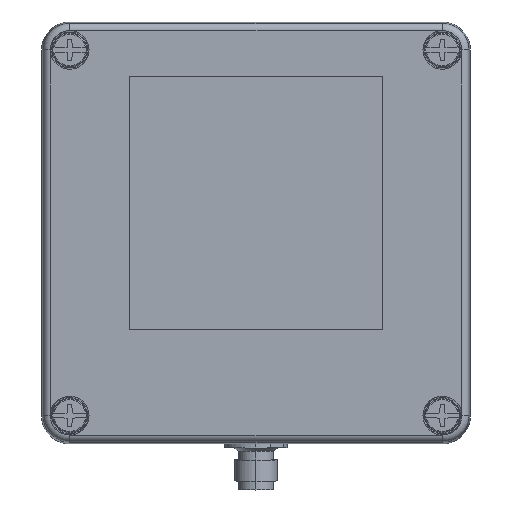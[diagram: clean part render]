
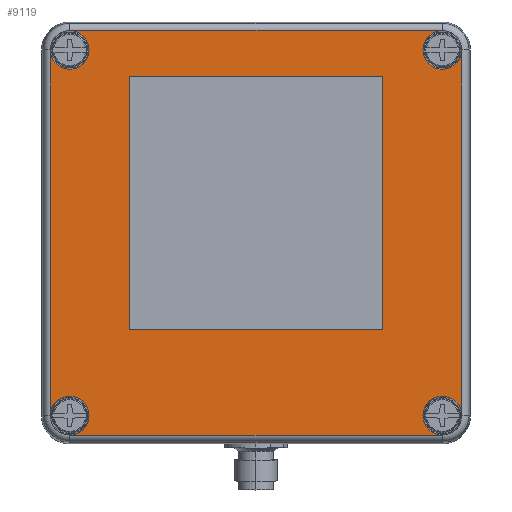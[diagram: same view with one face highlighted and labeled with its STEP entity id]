
A CAD part, top view. The second image highlights one B-rep face of the part: STEP entity #9119.
In plain terms, the highlighted planar face has unit normal (0, 0, 1) as drawn and (0, 0, -1) by its records, which use the part's own axes.
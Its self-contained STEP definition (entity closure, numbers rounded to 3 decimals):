
#930=VECTOR('',#11470,1.);
#936=VECTOR('',#11483,1.);
#940=VECTOR('',#11494,1.);
#943=VECTOR('',#11504,1.);
#1028=VECTOR('',#11804,1.);
#1029=VECTOR('',#11807,1.);
#1030=VECTOR('',#11810,1.);
#1031=VECTOR('',#11813,1.);
#1594=LINE('',#14472,#930);
#1600=LINE('',#14488,#936);
#1604=LINE('',#14500,#940);
#1607=LINE('',#14509,#943);
#1692=LINE('',#14960,#1028);
#1693=LINE('',#14965,#1029);
#1694=LINE('',#14969,#1030);
#1695=LINE('',#14973,#1031);
#2133=PLANE('',#9951);
#2469=CIRCLE('',#9824,1.5);
#2471=CIRCLE('',#9828,1.5);
#2473=CIRCLE('',#9832,1.5);
#2475=CIRCLE('',#9836,1.5);
#2560=CIRCLE('',#9952,5.5);
#2561=CIRCLE('',#9953,5.5);
#2562=CIRCLE('',#9954,5.533);
#2563=CIRCLE('',#9955,5.533);
#2564=CIRCLE('',#9956,5.533);
#2565=CIRCLE('',#9957,5.533);
#2566=CIRCLE('',#9958,5.5);
#2567=CIRCLE('',#9959,5.5);
#3130=VERTEX_POINT('',#14464);
#3131=VERTEX_POINT('',#14465);
#3134=VERTEX_POINT('',#14473);
#3136=VERTEX_POINT('',#14479);
#3137=VERTEX_POINT('',#14480);
#3140=VERTEX_POINT('',#14491);
#3141=VERTEX_POINT('',#14492);
#3144=VERTEX_POINT('',#14503);
#3295=VERTEX_POINT('',#14957);
#3296=VERTEX_POINT('',#14959);
#3297=VERTEX_POINT('',#14961);
#3298=VERTEX_POINT('',#14962);
#3299=VERTEX_POINT('',#14964);
#3300=VERTEX_POINT('',#14966);
#3301=VERTEX_POINT('',#14968);
#3302=VERTEX_POINT('',#14970);
#3303=VERTEX_POINT('',#14972);
#3304=VERTEX_POINT('',#14974);
#3305=VERTEX_POINT('',#14977);
#3306=VERTEX_POINT('',#14979);
#4126=EDGE_CURVE('',#3130,#3131,#2469,.T.);
#4130=EDGE_CURVE('',#3134,#3131,#1594,.T.);
#4133=EDGE_CURVE('',#3136,#3137,#2471,.T.);
#4138=EDGE_CURVE('',#3130,#3137,#1600,.T.);
#4139=EDGE_CURVE('',#3140,#3141,#2473,.T.);
#4144=EDGE_CURVE('',#3136,#3141,#1604,.T.);
#4145=EDGE_CURVE('',#3134,#3144,#2475,.T.);
#4149=EDGE_CURVE('',#3140,#3144,#1607,.T.);
#4325=EDGE_CURVE('',#3295,#3295,#2560,.T.);
#4326=EDGE_CURVE('',#3296,#3296,#2561,.T.);
#4327=EDGE_CURVE('',#3297,#3298,#1692,.T.);
#4328=EDGE_CURVE('',#3297,#3299,#2562,.T.);
#4329=EDGE_CURVE('',#3300,#3299,#1693,.T.);
#4330=EDGE_CURVE('',#3301,#3300,#2563,.T.);
#4331=EDGE_CURVE('',#3301,#3302,#1694,.T.);
#4332=EDGE_CURVE('',#3303,#3302,#2564,.T.);
#4333=EDGE_CURVE('',#3303,#3304,#1695,.T.);
#4334=EDGE_CURVE('',#3304,#3298,#2565,.T.);
#4335=EDGE_CURVE('',#3305,#3305,#2566,.T.);
#4336=EDGE_CURVE('',#3306,#3306,#2567,.T.);
#6081=ORIENTED_EDGE('',*,*,#4130,.T.);
#6082=ORIENTED_EDGE('',*,*,#4126,.F.);
#6083=ORIENTED_EDGE('',*,*,#4138,.T.);
#6084=ORIENTED_EDGE('',*,*,#4133,.F.);
#6085=ORIENTED_EDGE('',*,*,#4144,.T.);
#6086=ORIENTED_EDGE('',*,*,#4139,.F.);
#6087=ORIENTED_EDGE('',*,*,#4149,.T.);
#6088=ORIENTED_EDGE('',*,*,#4145,.F.);
#6089=ORIENTED_EDGE('',*,*,#4325,.T.);
#6090=ORIENTED_EDGE('',*,*,#4326,.T.);
#6091=ORIENTED_EDGE('',*,*,#4327,.F.);
#6092=ORIENTED_EDGE('',*,*,#4328,.T.);
#6093=ORIENTED_EDGE('',*,*,#4329,.F.);
#6094=ORIENTED_EDGE('',*,*,#4330,.F.);
#6095=ORIENTED_EDGE('',*,*,#4331,.T.);
#6096=ORIENTED_EDGE('',*,*,#4332,.F.);
#6097=ORIENTED_EDGE('',*,*,#4333,.T.);
#6098=ORIENTED_EDGE('',*,*,#4334,.T.);
#6099=ORIENTED_EDGE('',*,*,#4335,.T.);
#6100=ORIENTED_EDGE('',*,*,#4336,.T.);
#7822=EDGE_LOOP('',(#6081,#6082,#6083,#6084,#6085,#6086,#6087,#6088));
#7823=EDGE_LOOP('',(#6089));
#7824=EDGE_LOOP('',(#6090));
#7825=EDGE_LOOP('',(#6091,#6092,#6093,#6094,#6095,#6096,#6097,#6098));
#7826=EDGE_LOOP('',(#6099));
#7827=EDGE_LOOP('',(#6100));
#8513=FACE_BOUND('',#7822,.T.);
#8514=FACE_BOUND('',#7823,.T.);
#8515=FACE_BOUND('',#7824,.T.);
#8516=FACE_BOUND('',#7825,.T.);
#8517=FACE_BOUND('',#7826,.T.);
#8518=FACE_BOUND('',#7827,.T.);
#9119=ADVANCED_FACE('',(#8513,#8514,#8515,#8516,#8517,#8518),#2133,.F.);
#9824=AXIS2_PLACEMENT_3D('',#14463,#11463,#11464);
#9828=AXIS2_PLACEMENT_3D('',#14478,#11475,#11476);
#9832=AXIS2_PLACEMENT_3D('',#14490,#11486,#11487);
#9836=AXIS2_PLACEMENT_3D('',#14502,#11497,#11498);
#9951=AXIS2_PLACEMENT_3D('',#14955,#11799,$);
#9952=AXIS2_PLACEMENT_3D('',#14956,#11800,#11801);
#9953=AXIS2_PLACEMENT_3D('',#14958,#11802,#11803);
#9954=AXIS2_PLACEMENT_3D('',#14963,#11805,#11806);
#9955=AXIS2_PLACEMENT_3D('',#14967,#11808,#11809);
#9956=AXIS2_PLACEMENT_3D('',#14971,#11811,#11812);
#9957=AXIS2_PLACEMENT_3D('',#14975,#11814,#11815);
#9958=AXIS2_PLACEMENT_3D('',#14976,#11816,#11817);
#9959=AXIS2_PLACEMENT_3D('',#14978,#11818,#11819);
#11463=DIRECTION('',(0.,0.,-1.));
#11464=DIRECTION('',(1.061,1.061,0.));
#11470=DIRECTION('',(0.,1.,0.));
#11475=DIRECTION('',(0.,0.,-1.));
#11476=DIRECTION('',(-1.061,1.061,0.));
#11483=DIRECTION('',(-1.,0.,0.));
#11486=DIRECTION('',(0.,0.,-1.));
#11487=DIRECTION('',(-1.061,-1.061,0.));
#11494=DIRECTION('',(0.,-1.,0.));
#11497=DIRECTION('',(0.,0.,-1.));
#11498=DIRECTION('',(1.061,-1.061,0.));
#11504=DIRECTION('',(1.,0.,0.));
#11799=DIRECTION('',(0.,0.,1.));
#11800=DIRECTION('',(0.,0.,1.));
#11801=DIRECTION('',(5.5,0.,0.));
#11802=DIRECTION('',(0.,0.,1.));
#11803=DIRECTION('',(5.5,0.,0.));
#11804=DIRECTION('',(0.,-1.,0.));
#11805=DIRECTION('',(0.,0.,-1.));
#11806=DIRECTION('',(-5.533,0.,0.));
#11807=DIRECTION('',(-1.,0.,0.));
#11808=DIRECTION('',(0.,0.,1.));
#11809=DIRECTION('',(5.533,0.,0.));
#11810=DIRECTION('',(0.,-1.,0.));
#11811=DIRECTION('',(0.,0.,1.));
#11812=DIRECTION('',(5.533,0.,0.));
#11813=DIRECTION('',(-1.,0.,0.));
#11814=DIRECTION('',(0.,0.,-1.));
#11815=DIRECTION('',(-5.533,0.,0.));
#11816=DIRECTION('',(0.,0.,1.));
#11817=DIRECTION('',(5.5,0.,0.));
#11818=DIRECTION('',(0.,0.,1.));
#11819=DIRECTION('',(5.5,0.,0.));
#14463=CARTESIAN_POINT('',(32.5,23.967,0.));
#14464=CARTESIAN_POINT('',(32.5,25.467,0.));
#14465=CARTESIAN_POINT('',(34.,23.967,0.));
#14472=CARTESIAN_POINT('',(34.,21.734,0.));
#14473=CARTESIAN_POINT('',(34.,-41.033,0.));
#14478=CARTESIAN_POINT('',(-32.5,23.967,0.));
#14479=CARTESIAN_POINT('',(-34.,23.967,0.));
#14480=CARTESIAN_POINT('',(-32.5,25.467,0.));
#14488=CARTESIAN_POINT('',(29.267,25.467,0.));
#14490=CARTESIAN_POINT('',(-32.5,-41.033,0.));
#14491=CARTESIAN_POINT('',(-32.5,-42.533,0.));
#14492=CARTESIAN_POINT('',(-34.,-41.033,0.));
#14500=CARTESIAN_POINT('',(-34.,21.734,0.));
#14502=CARTESIAN_POINT('',(32.5,-41.033,0.));
#14503=CARTESIAN_POINT('',(32.5,-42.533,0.));
#14509=CARTESIAN_POINT('',(29.267,-42.533,0.));
#14955=CARTESIAN_POINT('',(58.533,52.,0.));
#14956=CARTESIAN_POINT('',(-53.,52.,0.));
#14957=CARTESIAN_POINT('',(-47.5,52.,0.));
#14958=CARTESIAN_POINT('',(53.,-52.,0.));
#14959=CARTESIAN_POINT('',(58.5,-52.,0.));
#14960=CARTESIAN_POINT('',(-58.533,52.,0.));
#14961=CARTESIAN_POINT('',(-58.533,52.,0.));
#14962=CARTESIAN_POINT('',(-58.533,-52.,0.));
#14963=CARTESIAN_POINT('',(-53.,52.,0.));
#14964=CARTESIAN_POINT('',(-53.,57.533,0.));
#14965=CARTESIAN_POINT('',(53.,57.533,0.));
#14966=CARTESIAN_POINT('',(53.,57.533,0.));
#14967=CARTESIAN_POINT('',(53.,52.,0.));
#14968=CARTESIAN_POINT('',(58.533,52.,0.));
#14969=CARTESIAN_POINT('',(58.533,52.,0.));
#14970=CARTESIAN_POINT('',(58.533,-52.,0.));
#14971=CARTESIAN_POINT('',(53.,-52.,0.));
#14972=CARTESIAN_POINT('',(53.,-57.533,0.));
#14973=CARTESIAN_POINT('',(53.,-57.533,0.));
#14974=CARTESIAN_POINT('',(-53.,-57.533,0.));
#14975=CARTESIAN_POINT('',(-53.,-52.,0.));
#14976=CARTESIAN_POINT('',(-53.,-52.,0.));
#14977=CARTESIAN_POINT('',(-47.5,-52.,0.));
#14978=CARTESIAN_POINT('',(53.,52.,0.));
#14979=CARTESIAN_POINT('',(58.5,52.,0.));
